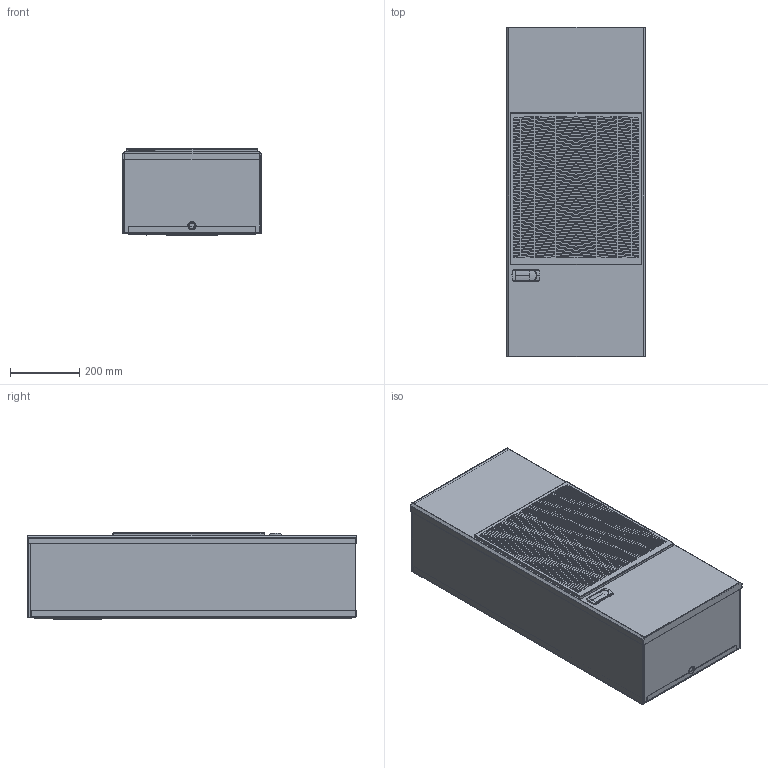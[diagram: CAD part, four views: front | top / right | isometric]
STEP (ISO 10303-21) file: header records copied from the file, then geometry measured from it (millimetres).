
FILE_DESCRIPTION(/* description */ (''),/* implementation_level */ '2;1');
FILE_NAME(/* name */ 'CCU(10-15-20)A231WNIyX',/* time_stamp */ '2024-08-05T14:36:28+02:00',/* author */ (''),/* organization */ (''),/* preprocessor_version */ 'ST-DEVELOPER v16.5',/* originating_system */ 'Rhino 7.37',/* authorisation */ '');
FILE_SCHEMA (('AUTOMOTIVE_DESIGN'));
Length unit declared in the file: millimetre
Products named in the file (1): Document
Bounding box: 404 x 952.5 x 251 mm (x, y, z)
Volume: 1122920.7 mm3; surface area: 3122253.4 mm2
Topology: 16 solids, 17 shells, 1986 faces, 5577 edges, 3629 vertices
Faces by surface type: plane 1719, cylinder 182, bspline 85
Entity records: 64472 total; most frequent: CARTESIAN_POINT 25894, ORIENTED_EDGE 11137, EDGE_CURVE 5576, B_SPLINE_CURVE_WITH_KNOTS 5138, VERTEX_POINT 3629, EDGE_LOOP 2656, ADVANCED_FACE 1986, FACE_OUTER_BOUND 1986
